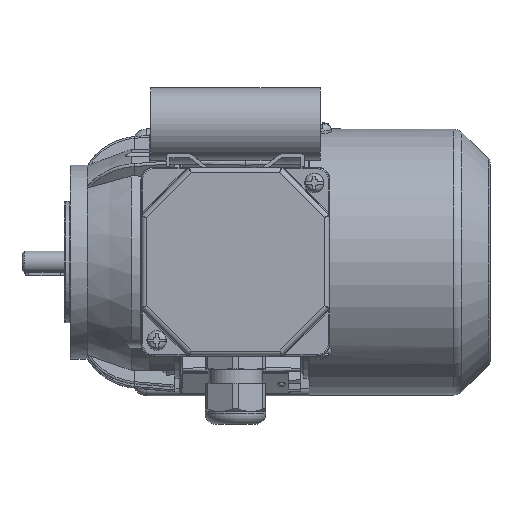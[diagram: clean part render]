
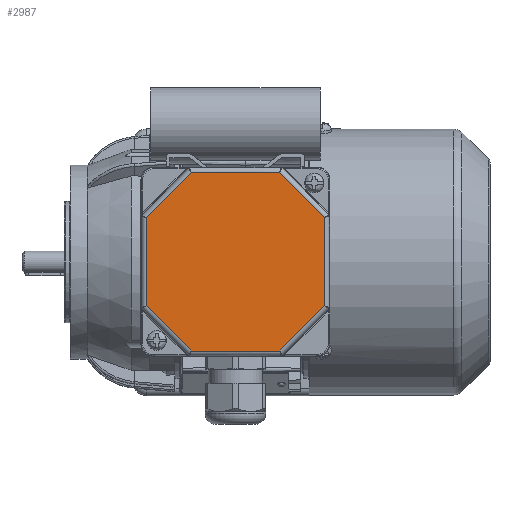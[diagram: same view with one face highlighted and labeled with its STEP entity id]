
A CAD part, top view. The second image highlights one B-rep face of the part: STEP entity #2987.
In plain terms, the highlighted planar face has unit normal (0, 0, 1).
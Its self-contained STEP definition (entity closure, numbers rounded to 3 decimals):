
#2987 = ADVANCED_FACE( '', ( #6989 ), #6990, .T. );
#6989 = FACE_OUTER_BOUND( '', #14868, .T. );
#6990 = PLANE( '', #14869 );
#14868 = EDGE_LOOP( '', ( #26215, #26216, #26217, #26218, #26219, #26220, #26221, #26222 ) );
#14869 = AXIS2_PLACEMENT_3D( '', #26223, #26224, #26225 );
#26215 = ORIENTED_EDGE( '', *, *, #40993, .T. );
#26216 = ORIENTED_EDGE( '', *, *, #40994, .T. );
#26217 = ORIENTED_EDGE( '', *, *, #40995, .T. );
#26218 = ORIENTED_EDGE( '', *, *, #40996, .T. );
#26219 = ORIENTED_EDGE( '', *, *, #40997, .T. );
#26220 = ORIENTED_EDGE( '', *, *, #40998, .T. );
#26221 = ORIENTED_EDGE( '', *, *, #40999, .T. );
#26222 = ORIENTED_EDGE( '', *, *, #41000, .T. );
#26223 = CARTESIAN_POINT( '', ( -39., 39., 12. ) );
#26224 = DIRECTION( '', ( 0., 0., 1. ) );
#26225 = DIRECTION( '', ( 1., 0., 0. ) );
#40993 = EDGE_CURVE( '', #49297, #49298, #49299, .F. );
#40994 = EDGE_CURVE( '', #49298, #49300, #49301, .T. );
#40995 = EDGE_CURVE( '', #49300, #49302, #49303, .F. );
#40996 = EDGE_CURVE( '', #49302, #48961, #49304, .T. );
#40997 = EDGE_CURVE( '', #48961, #49305, #49306, .F. );
#40998 = EDGE_CURVE( '', #49305, #49307, #49308, .T. );
#40999 = EDGE_CURVE( '', #49307, #49309, #49310, .F. );
#41000 = EDGE_CURVE( '', #49309, #49297, #49311, .T. );
#48961 = VERTEX_POINT( '', #60812 );
#49297 = VERTEX_POINT( '', #61373 );
#49298 = VERTEX_POINT( '', #61374 );
#49299 = LINE( '', #61375, #61376 );
#49300 = VERTEX_POINT( '', #61377 );
#49301 = LINE( '', #61378, #61379 );
#49302 = VERTEX_POINT( '', #61380 );
#49303 = LINE( '', #61381, #61382 );
#49304 = LINE( '', #61383, #61384 );
#49305 = VERTEX_POINT( '', #61385 );
#49306 = LINE( '', #61386, #61387 );
#49307 = VERTEX_POINT( '', #61388 );
#49308 = LINE( '', #61389, #61390 );
#49309 = VERTEX_POINT( '', #61391 );
#49310 = LINE( '', #61392, #61393 );
#49311 = LINE( '', #61394, #61395 );
#60812 = CARTESIAN_POINT( '', ( -36.825, 18.255, 12. ) );
#61373 = CARTESIAN_POINT( '', ( 36.825, -18.255, 12. ) );
#61374 = CARTESIAN_POINT( '', ( 36.825, 18.255, 12. ) );
#61375 = CARTESIAN_POINT( '', ( 36.825, 19.069, 12. ) );
#61376 = VECTOR( '', #75752, 1000. );
#61377 = CARTESIAN_POINT( '', ( 18.255, 36.825, 12. ) );
#61378 = CARTESIAN_POINT( '', ( 17.679, 37.401, 12. ) );
#61379 = VECTOR( '', #75753, 1000. );
#61380 = CARTESIAN_POINT( '', ( -18.255, 36.825, 12. ) );
#61381 = CARTESIAN_POINT( '', ( -19.069, 36.825, 12. ) );
#61382 = VECTOR( '', #75754, 1000. );
#61383 = CARTESIAN_POINT( '', ( -37.401, 17.679, 12. ) );
#61384 = VECTOR( '', #75755, 1000. );
#61385 = CARTESIAN_POINT( '', ( -36.825, -18.255, 12. ) );
#61386 = CARTESIAN_POINT( '', ( -36.825, -19.069, 12. ) );
#61387 = VECTOR( '', #75756, 1000. );
#61388 = CARTESIAN_POINT( '', ( -18.255, -36.825, 12. ) );
#61389 = CARTESIAN_POINT( '', ( -17.679, -37.401, 12. ) );
#61390 = VECTOR( '', #75757, 1000. );
#61391 = CARTESIAN_POINT( '', ( 18.255, -36.825, 12. ) );
#61392 = CARTESIAN_POINT( '', ( 19.069, -36.825, 12. ) );
#61393 = VECTOR( '', #75758, 1000. );
#61394 = CARTESIAN_POINT( '', ( 37.401, -17.679, 12. ) );
#61395 = VECTOR( '', #75759, 1000. );
#75752 = DIRECTION( '', ( 0., -1., 0. ) );
#75753 = DIRECTION( '', ( -0.707, 0.707, 0. ) );
#75754 = DIRECTION( '', ( 1., 0., 0. ) );
#75755 = DIRECTION( '', ( -0.707, -0.707, 0. ) );
#75756 = DIRECTION( '', ( 0., 1., 0. ) );
#75757 = DIRECTION( '', ( 0.707, -0.707, 0. ) );
#75758 = DIRECTION( '', ( -1., 0., 0. ) );
#75759 = DIRECTION( '', ( 0.707, 0.707, 0. ) );
